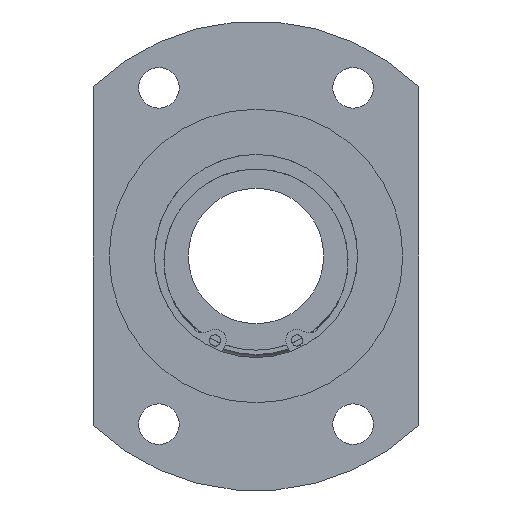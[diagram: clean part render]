
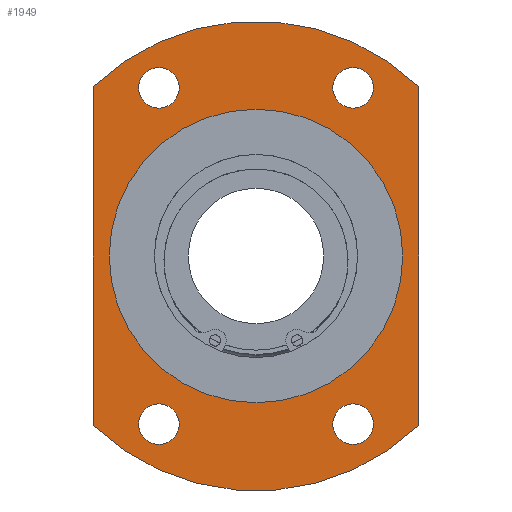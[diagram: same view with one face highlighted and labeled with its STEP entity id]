
A CAD part, left-side view. The second image highlights one B-rep face of the part: STEP entity #1949.
In plain terms, the highlighted planar face has unit normal (-1, 0, 0).
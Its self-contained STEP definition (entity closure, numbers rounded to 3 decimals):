
#1709=CARTESIAN_POINT('',(12.,26.,-37.239));
#1710=VERTEX_POINT('',#1709);
#1711=CARTESIAN_POINT('',(12.,21.5,-37.239));
#1712=DIRECTION('',(1.0,0.0,0.0));
#1713=DIRECTION('',(0.0,1.0,0.0));
#1714=AXIS2_PLACEMENT_3D('',#1711,#1712,#1713);
#1715=CIRCLE('',#1714,4.5);
#1716=EDGE_CURVE('',#1710,#1710,#1715,.T.);
#1737=CARTESIAN_POINT('',(12.,-17.,37.239));
#1738=VERTEX_POINT('',#1737);
#1739=CARTESIAN_POINT('',(12.,-21.5,37.239));
#1740=DIRECTION('',(1.0,0.0,0.0));
#1741=DIRECTION('',(0.0,1.0,0.0));
#1742=AXIS2_PLACEMENT_3D('',#1739,#1740,#1741);
#1743=CIRCLE('',#1742,4.5);
#1744=EDGE_CURVE('',#1738,#1738,#1743,.T.);
#1765=CARTESIAN_POINT('',(12.,26.,37.239));
#1766=VERTEX_POINT('',#1765);
#1767=CARTESIAN_POINT('',(12.,21.5,37.239));
#1768=DIRECTION('',(1.0,0.0,0.0));
#1769=DIRECTION('',(0.0,1.0,0.0));
#1770=AXIS2_PLACEMENT_3D('',#1767,#1768,#1769);
#1771=CIRCLE('',#1770,4.5);
#1772=EDGE_CURVE('',#1766,#1766,#1771,.T.);
#1793=CARTESIAN_POINT('',(12.,-17.,-37.239));
#1794=VERTEX_POINT('',#1793);
#1795=CARTESIAN_POINT('',(12.,-21.5,-37.239));
#1796=DIRECTION('',(1.0,0.0,0.0));
#1797=DIRECTION('',(0.0,1.0,0.0));
#1798=AXIS2_PLACEMENT_3D('',#1795,#1796,#1797);
#1799=CIRCLE('',#1798,4.5);
#1800=EDGE_CURVE('',#1794,#1794,#1799,.T.);
#1820=CARTESIAN_POINT('',(12.,36.,-37.523));
#1821=VERTEX_POINT('',#1820);
#1828=CARTESIAN_POINT('',(12.,36.,37.523));
#1829=VERTEX_POINT('',#1828);
#1830=CARTESIAN_POINT('',(12.,36.,37.523));
#1831=DIRECTION('',(0.0,0.0,-1.0));
#1832=VECTOR('',#1831,75.047);
#1833=LINE('',#1830,#1832);
#1834=EDGE_CURVE('',#1829,#1821,#1833,.T.);
#1860=CARTESIAN_POINT('',(12.,-36.,37.523));
#1861=VERTEX_POINT('',#1860);
#1868=CARTESIAN_POINT('',(12.,-36.,-37.523));
#1869=VERTEX_POINT('',#1868);
#1870=CARTESIAN_POINT('',(12.,-36.,-37.523));
#1871=DIRECTION('',(0.0,0.0,1.0));
#1872=VECTOR('',#1871,75.047);
#1873=LINE('',#1870,#1872);
#1874=EDGE_CURVE('',#1869,#1861,#1873,.T.);
#1899=CARTESIAN_POINT('',(12.,0.0,0.0));
#1900=DIRECTION('',(-1.0,0.0,0.0));
#1901=DIRECTION('',(0.0,0.0,1.0));
#1902=AXIS2_PLACEMENT_3D('',#1899,#1900,#1901);
#1903=CIRCLE('',#1902,52.);
#1904=EDGE_CURVE('',#1821,#1869,#1903,.T.);
#1909=CARTESIAN_POINT('',(12.,0.0,42.25));
#1910=DIRECTION('',(-1.0,0.0,0.0));
#1911=DIRECTION('',(0.0,0.0,1.0));
#1912=AXIS2_PLACEMENT_3D('',#1909,#1910,#1911);
#1913=PLANE('',#1912);
#1914=ORIENTED_EDGE('',*,*,#1834,.T.);
#1915=ORIENTED_EDGE('',*,*,#1904,.T.);
#1916=ORIENTED_EDGE('',*,*,#1874,.T.);
#1917=CARTESIAN_POINT('',(12.,0.0,0.0));
#1918=DIRECTION('',(-1.0,0.0,0.0));
#1919=DIRECTION('',(0.0,0.0,1.0));
#1920=AXIS2_PLACEMENT_3D('',#1917,#1918,#1919);
#1921=CIRCLE('',#1920,52.);
#1922=EDGE_CURVE('',#1861,#1829,#1921,.T.);
#1923=ORIENTED_EDGE('',*,*,#1922,.T.);
#1924=EDGE_LOOP('',(#1914,#1915,#1916,#1923));
#1925=FACE_OUTER_BOUND('',#1924,.T.);
#1926=ORIENTED_EDGE('',*,*,#1716,.T.);
#1927=EDGE_LOOP('',(#1926));
#1928=FACE_BOUND('',#1927,.T.);
#1929=ORIENTED_EDGE('',*,*,#1744,.T.);
#1930=EDGE_LOOP('',(#1929));
#1931=FACE_BOUND('',#1930,.T.);
#1932=ORIENTED_EDGE('',*,*,#1772,.T.);
#1933=EDGE_LOOP('',(#1932));
#1934=FACE_BOUND('',#1933,.T.);
#1935=ORIENTED_EDGE('',*,*,#1800,.T.);
#1936=EDGE_LOOP('',(#1935));
#1937=FACE_BOUND('',#1936,.T.);
#1938=CARTESIAN_POINT('',(12.,0.0,32.5));
#1939=VERTEX_POINT('',#1938);
#1940=CARTESIAN_POINT('',(12.,0.0,0.0));
#1941=DIRECTION('',(-1.0,0.0,0.0));
#1942=DIRECTION('',(0.0,0.0,1.0));
#1943=AXIS2_PLACEMENT_3D('',#1940,#1941,#1942);
#1944=CIRCLE('',#1943,32.5);
#1945=EDGE_CURVE('',#1939,#1939,#1944,.T.);
#1946=ORIENTED_EDGE('',*,*,#1945,.F.);
#1947=EDGE_LOOP('',(#1946));
#1948=FACE_BOUND('',#1947,.T.);
#1949=ADVANCED_FACE('',(#1925,#1928,#1931,#1934,#1937,#1948),#1913,.T.);
